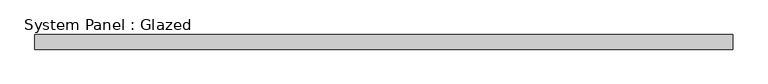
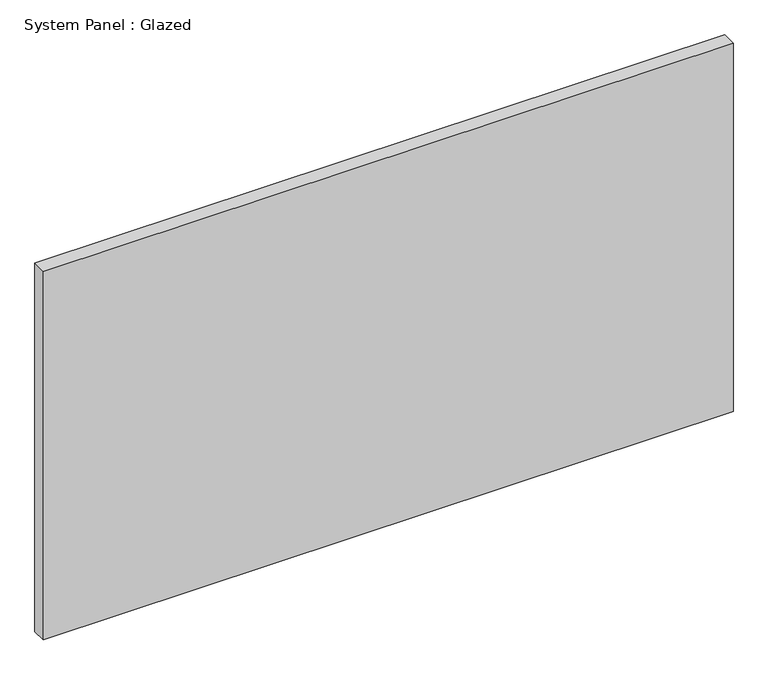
"""IFC4 building model written with IfcOpenShell, lengths in millimetres: plate geometry, System Panel : Glazed."""

from ifc_helpers import new_model, si_unit, origin, origin_with_axes, place, context, project, spatial, polyline, outline, extrude, source, transform, mapped, element, save


def system_panel_glazed_67b39806(model_context):
    return source(origin(), model_context, "Body", "SweptSolid", [
        extrude(outline(polyline([(597.3125, 24.5), (-597.3125, 24.5), (-597.3125, 49.5), (597.3125, 49.5), (597.3125, 24.5)])), origin_with_axes(), (0.0, 0.0, 1.0), 675.0),
    ])


if __name__ == "__main__":
    model = new_model("IFC4")
    model_context = context("Model", 3, world=origin())
    ifc_project = project(units=[si_unit("LENGTHUNIT", "METRE", prefix="MILLI")], contexts=[model_context])
    site = spatial("IfcSite", under=ifc_project)
    building = spatial("IfcBuilding", under=site)
    placement = place(None, origin())
    system_panel_glazed_shape = system_panel_glazed_67b39806(model_context)
    element("IfcPlate", 1, ObjectType="System Panel : Glazed", at=placement, inside=building, context=model_context, shape_type="MappedRepresentation", body=[
        mapped(system_panel_glazed_shape, transform((0.0, 0.0, 0.0), x_axis=(1.0, 0.0, 0.0), y_axis=(0.0, 1.0, 0.0), z_axis=(0.0, 0.0, 1.0))),
    ])
    save(model, "model.ifc")
